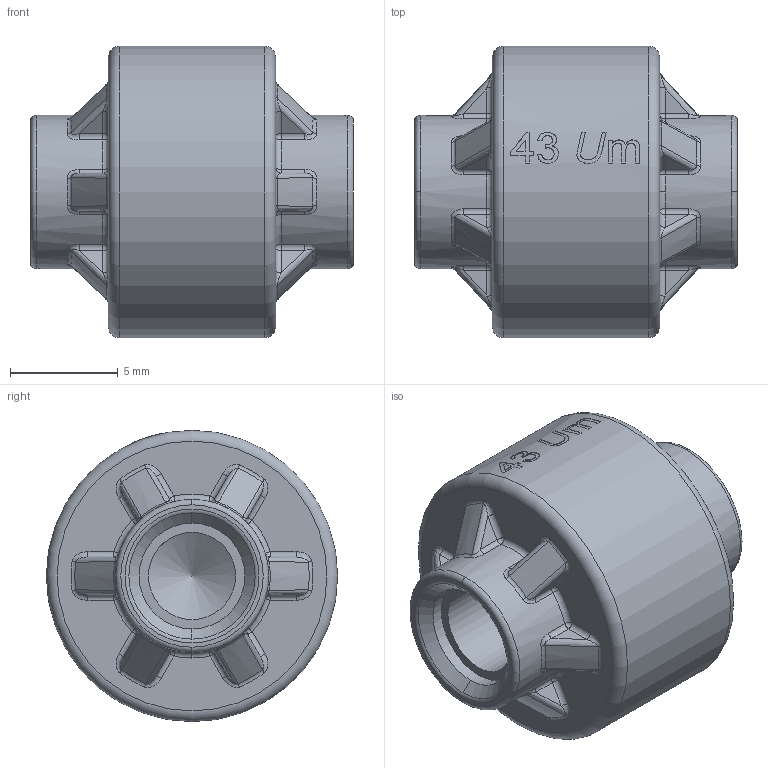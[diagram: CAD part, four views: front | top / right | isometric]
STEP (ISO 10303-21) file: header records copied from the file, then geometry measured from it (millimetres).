
FILE_DESCRIPTION(/* description */ ('SolidWorks IGES file using NURBS representation for surfaces '),/* implementation_level */ '2;1');
FILE_NAME(/* name */ 'K:\Normteile INVENTOR\Air-Logic\Filters\F-970-43.IGS.ipt.stp',/* time_stamp */ '2020-05-27T10:40:13+02:00',/* author */ ('amarsh'),/* organization */ (''),/* preprocessor_version */ 'ST-DEVELOPER v18',/* originating_system */ 'Autodesk Inventor 2020',/* authorisation */ '');
FILE_SCHEMA (('AUTOMOTIVE_DESIGN { 1 0 10303 214 3 1 1 }'));
Length unit declared in the file: millimetre
Products named in the file (1): F-970-43.IGS
Bounding box: 14.95 x 13.5 x 13.5 mm (x, y, z)
Volume: 1244.5 mm3; surface area: 911.3 mm2
Topology: 1 solids, 1 shells, 316 faces, 771 edges, 452 vertices
Faces by surface type: bspline 109, cylinder 64, plane 55, torus 46, sphere 24, cone 18
Full cylindrical faces by diameter (mm): 4.039 x2, 4.9 x2, 7.1 x2, 13.5 x1
Entity records: 16559 total; most frequent: CARTESIAN_POINT 9737, ORIENTED_EDGE 1510, DIRECTION 1321, EDGE_CURVE 755, AXIS2_PLACEMENT_3D 560, VERTEX_POINT 452, CIRCLE 338, EDGE_LOOP 327
